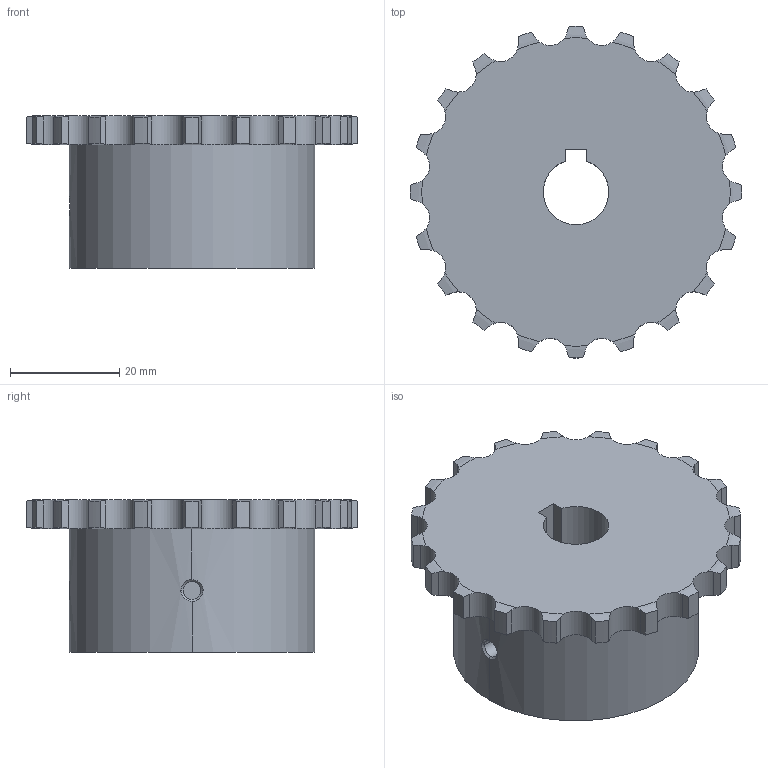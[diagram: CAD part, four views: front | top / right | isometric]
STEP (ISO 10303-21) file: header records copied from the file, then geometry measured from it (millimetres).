
FILE_DESCRIPTION((''),'2;1');
FILE_NAME('510-101-1220_PRT','2021-02-13T',('Brieden'),('Brieden'),'PRO/ENGINEER BY PARAMETRIC TECHNOLOGY CORPORATION, 2010160','PRO/ENGINEER BY PARAMETRIC TECHNOLOGY CORPORATION, 2010160','');
FILE_SCHEMA(('AUTOMOTIVE_DESIGN { 1 0 10303 214 1 1 1 1 }'));
Length unit declared in the file: millimetre
Products named in the file (1): 510-101-1220_PRT
Bounding box: 60.88 x 60.88 x 28 mm (x, y, z)
Volume: 46197.4 mm3; surface area: 10879.5 mm2
Topology: 1 solids, 1 shells, 141 faces, 405 edges, 268 vertices
Faces by surface type: cylinder 87, torus 40, plane 8, bspline 6
Entity records: 6780 total; most frequent: CARTESIAN_POINT 2029, ORIENTED_EDGE 810, DIRECTION 633, PRESENTATION_STYLE_ASSIGNMENT 406, STYLED_ITEM 406, CURVE_STYLE 405, EDGE_CURVE 405, VERTEX_POINT 268
